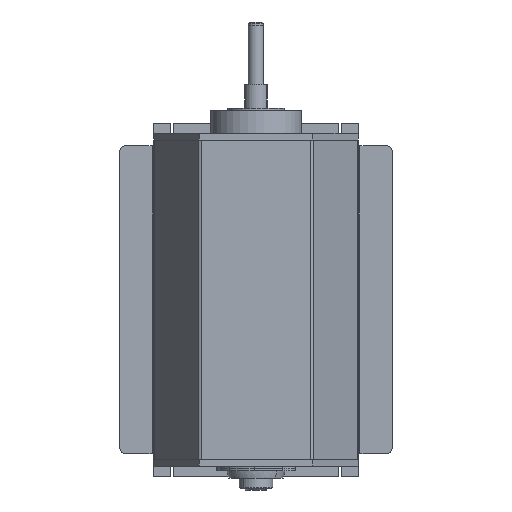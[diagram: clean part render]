
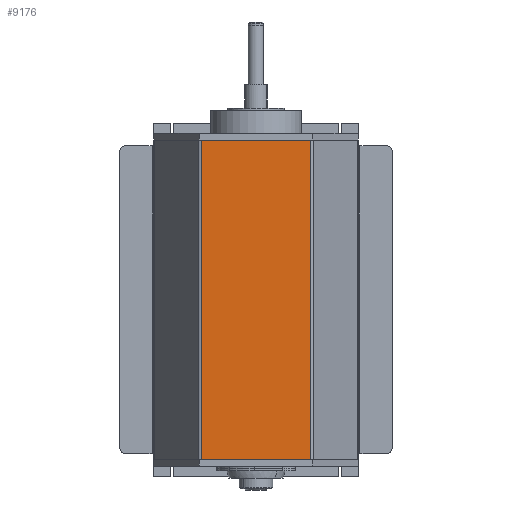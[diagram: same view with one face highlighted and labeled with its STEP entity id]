
A CAD part, front view. The second image highlights one B-rep face of the part: STEP entity #9176.
In plain terms, the highlighted planar face has unit normal (0, -1, 0).
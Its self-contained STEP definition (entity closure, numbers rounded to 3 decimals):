
#687 = VECTOR ( 'NONE', #8016, 1000. ) ;
#2637 = EDGE_CURVE ( 'NONE', #11366, #13336, #14213, .T. ) ;
#2795 = DIRECTION ( 'NONE',  ( 0., 0., -1. ) ) ;
#2942 = CARTESIAN_POINT ( 'NONE',  ( -50., 0., 429.779 ) ) ;
#3148 = VERTEX_POINT ( 'NONE', #13512 ) ;
#4355 = DIRECTION ( 'NONE',  ( 0., 0., -1. ) ) ;
#4621 = EDGE_CURVE ( 'NONE', #3148, #11366, #9170, .T. ) ;
#4899 = CARTESIAN_POINT ( 'NONE',  ( -50., 0., 140.5 ) ) ;
#4951 = LINE ( 'NONE', #18944, #687 ) ;
#5257 = CARTESIAN_POINT ( 'NONE',  ( -48.268, 0., -140.5 ) ) ;
#5591 = EDGE_CURVE ( 'NONE', #3148, #8477, #13405, .T. ) ;
#5655 = VECTOR ( 'NONE', #4355, 1000. ) ;
#6647 = DIRECTION ( 'NONE',  ( -1., 0., 0. ) ) ;
#8016 = DIRECTION ( 'NONE',  ( 1., 0., 0. ) ) ;
#8469 = CARTESIAN_POINT ( 'NONE',  ( -48.268, 0., 140.5 ) ) ;
#8477 = VERTEX_POINT ( 'NONE', #9077 ) ;
#9077 = CARTESIAN_POINT ( 'NONE',  ( 48.268, 0., -140.5 ) ) ;
#9170 = LINE ( 'NONE', #4899, #9928 ) ;
#9176 = ADVANCED_FACE ( 'NONE', ( #11909 ), #17294, .F. ) ;
#9928 = VECTOR ( 'NONE', #6647, 1000. ) ;
#10013 = ORIENTED_EDGE ( 'NONE', *, *, #15624, .T. ) ;
#10678 = CARTESIAN_POINT ( 'NONE',  ( 48.268, 0., 429.779 ) ) ;
#10823 = ORIENTED_EDGE ( 'NONE', *, *, #2637, .T. ) ;
#11366 = VERTEX_POINT ( 'NONE', #8469 ) ;
#11723 = VECTOR ( 'NONE', #2795, 1000. ) ;
#11909 = FACE_OUTER_BOUND ( 'NONE', #14348, .T. ) ;
#13336 = VERTEX_POINT ( 'NONE', #5257 ) ;
#13365 = ORIENTED_EDGE ( 'NONE', *, *, #5591, .F. ) ;
#13405 = LINE ( 'NONE', #10678, #5655 ) ;
#13512 = CARTESIAN_POINT ( 'NONE',  ( 48.268, 0., 140.5 ) ) ;
#14070 = DIRECTION ( 'NONE',  ( -1., 0., 0. ) ) ;
#14213 = LINE ( 'NONE', #15311, #11723 ) ;
#14271 = DIRECTION ( 'NONE',  ( 0., 1., 0. ) ) ;
#14348 = EDGE_LOOP ( 'NONE', ( #20470, #10823, #10013, #13365 ) ) ;
#15311 = CARTESIAN_POINT ( 'NONE',  ( -48.268, 0., 429.779 ) ) ;
#15624 = EDGE_CURVE ( 'NONE', #13336, #8477, #4951, .T. ) ;
#17294 = PLANE ( 'NONE',  #17828 ) ;
#17828 = AXIS2_PLACEMENT_3D ( 'NONE', #2942, #14271, #14070 ) ;
#18944 = CARTESIAN_POINT ( 'NONE',  ( -50., 0., -140.5 ) ) ;
#20470 = ORIENTED_EDGE ( 'NONE', *, *, #4621, .T. ) ;
